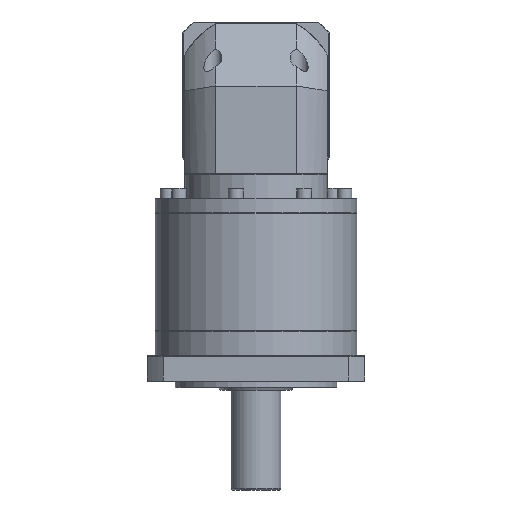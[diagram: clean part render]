
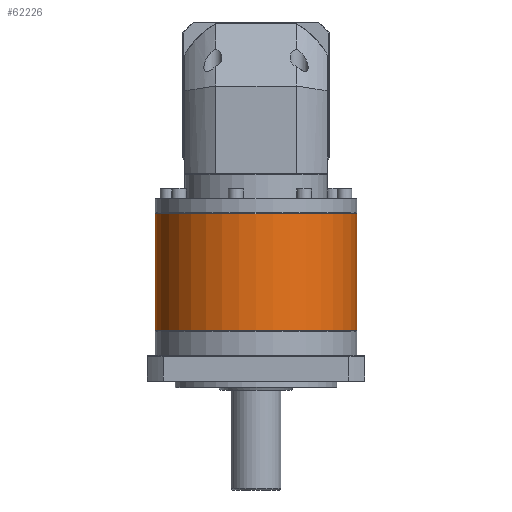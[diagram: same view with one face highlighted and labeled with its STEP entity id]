
A CAD part, front view. The second image highlights one B-rep face of the part: STEP entity #62226.
In plain terms, the highlighted cylindrical face has radius 81 mm (diameter 162 mm), a partial arc.
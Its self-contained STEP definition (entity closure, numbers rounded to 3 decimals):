
#2515 = ORIENTED_EDGE ( 'NONE', *, *, #45768, .F. ) ;
#8134 = AXIS2_PLACEMENT_3D ( 'NONE', #103241, #13612, #14101 ) ;
#13612 = DIRECTION ( 'NONE',  ( 0., 0., -1. ) ) ;
#14101 = DIRECTION ( 'NONE',  ( -1., 0., 0. ) ) ;
#15294 = VERTEX_POINT ( 'NONE', #108232 ) ;
#18128 = CARTESIAN_POINT ( 'NONE',  ( -215.242, 86.551, -99.065 ) ) ;
#20666 = VERTEX_POINT ( 'NONE', #18128 ) ;
#28938 = CIRCLE ( 'NONE', #8134, 81. ) ;
#33799 = DIRECTION ( 'NONE',  ( 0., 0., -1. ) ) ;
#42152 = LINE ( 'NONE', #55582, #101153 ) ;
#42423 = VERTEX_POINT ( 'NONE', #115905 ) ;
#45768 = EDGE_CURVE ( 'NONE', #42423, #104011, #94393, .T. ) ;
#49153 = EDGE_CURVE ( 'NONE', #20666, #15294, #42152, .T. ) ;
#52196 = CIRCLE ( 'NONE', #80775, 81. ) ;
#55582 = CARTESIAN_POINT ( 'NONE',  ( -215.242, 86.551, -98.565 ) ) ;
#62226 = ADVANCED_FACE ( 'NONE', ( #95612 ), #84994, .T. ) ;
#64093 = DIRECTION ( 'NONE',  ( 0., 0., -1. ) ) ;
#68412 = CARTESIAN_POINT ( 'NONE',  ( -53.242, 86.551, -192.565 ) ) ;
#69744 = EDGE_CURVE ( 'NONE', #42423, #20666, #28938, .T. ) ;
#73061 = EDGE_CURVE ( 'NONE', #15294, #104011, #52196, .T. ) ;
#80775 = AXIS2_PLACEMENT_3D ( 'NONE', #127084, #105786, #93669 ) ;
#84542 = ORIENTED_EDGE ( 'NONE', *, *, #49153, .T. ) ;
#84994 = CYLINDRICAL_SURFACE ( 'NONE', #109943, 81. ) ;
#89214 = ORIENTED_EDGE ( 'NONE', *, *, #69744, .T. ) ;
#93669 = DIRECTION ( 'NONE',  ( -1., 0., 0. ) ) ;
#94393 = LINE ( 'NONE', #99483, #106449 ) ;
#95612 = FACE_OUTER_BOUND ( 'NONE', #106065, .T. ) ;
#99483 = CARTESIAN_POINT ( 'NONE',  ( -53.242, 86.551, -98.565 ) ) ;
#101153 = VECTOR ( 'NONE', #33799, 1000. ) ;
#103241 = CARTESIAN_POINT ( 'NONE',  ( -134.242, 86.551, -99.065 ) ) ;
#104011 = VERTEX_POINT ( 'NONE', #68412 ) ;
#105786 = DIRECTION ( 'NONE',  ( 0., 0., 1. ) ) ;
#106065 = EDGE_LOOP ( 'NONE', ( #2515, #89214, #84542, #129167 ) ) ;
#106449 = VECTOR ( 'NONE', #64093, 1000. ) ;
#108232 = CARTESIAN_POINT ( 'NONE',  ( -215.242, 86.551, -192.565 ) ) ;
#108757 = DIRECTION ( 'NONE',  ( -1., 0., 0. ) ) ;
#109943 = AXIS2_PLACEMENT_3D ( 'NONE', #137975, #116584, #108757 ) ;
#115905 = CARTESIAN_POINT ( 'NONE',  ( -53.242, 86.551, -99.065 ) ) ;
#116584 = DIRECTION ( 'NONE',  ( 0., 0., -1. ) ) ;
#127084 = CARTESIAN_POINT ( 'NONE',  ( -134.242, 86.551, -192.565 ) ) ;
#129167 = ORIENTED_EDGE ( 'NONE', *, *, #73061, .T. ) ;
#137975 = CARTESIAN_POINT ( 'NONE',  ( -134.242, 86.551, -98.565 ) ) ;
